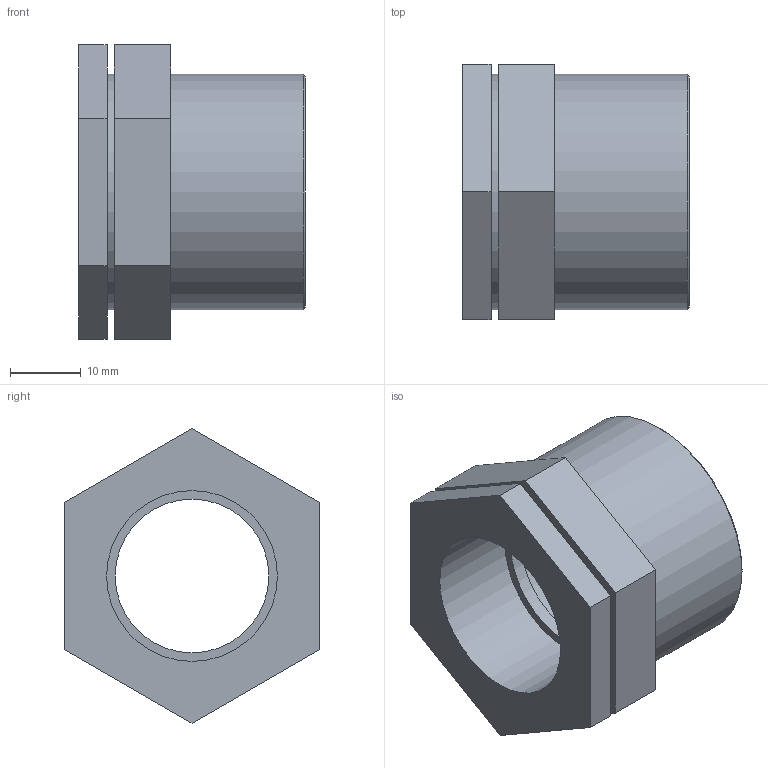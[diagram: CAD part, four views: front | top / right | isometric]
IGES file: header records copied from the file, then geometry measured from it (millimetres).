
Global section: file name: 050207010007_0502070100070A.ipt; native system: Autodesk Inventor 2015; preprocessor: unknown; author: KIM; date: 20170618.093113; units: millimetre
Bounding box: 32 x 36 x 41.57 mm (x, y, z)
Volume: 11703 mm3; surface area: 8960.3 mm2
Topology: 1 solids, 1 shells, 28 faces, 66 edges, 46 vertices
Faces by surface type: plane 20, revolution 4, cylinder 3, cone 1
Full cylindrical faces by diameter (mm): 27.735 x1, 33.249 x2
